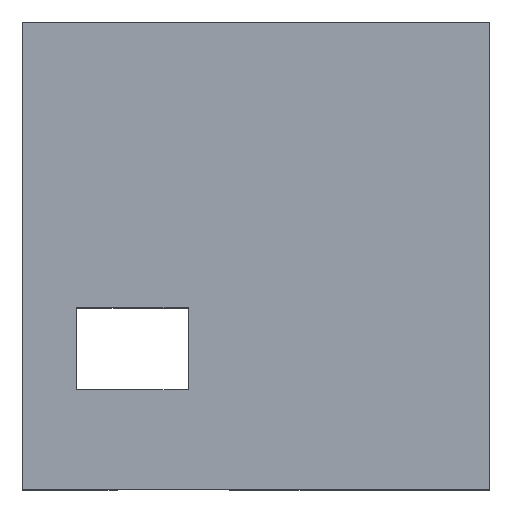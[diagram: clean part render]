
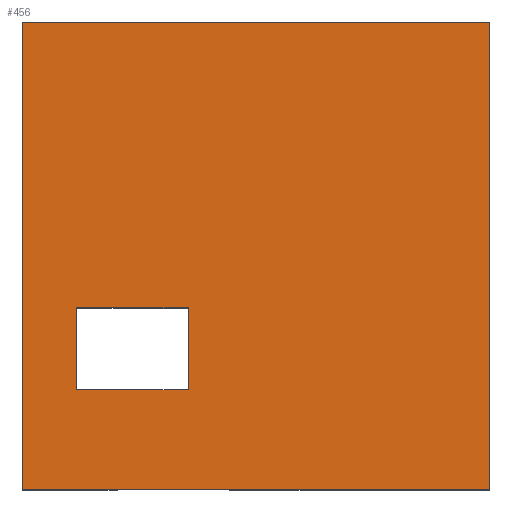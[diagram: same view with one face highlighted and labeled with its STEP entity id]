
A CAD part, top view. The second image highlights one B-rep face of the part: STEP entity #456.
In plain terms, the highlighted planar face has unit normal (0, 0, 1).
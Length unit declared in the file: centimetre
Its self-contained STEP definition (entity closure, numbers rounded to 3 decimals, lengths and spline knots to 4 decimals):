
#5 = ORIENTED_EDGE ( 'NONE', *, *, #780, .F. ) ;
#12 = DIRECTION ( 'NONE',  ( 1., 0., 0. ) ) ;
#93 = ORIENTED_EDGE ( 'NONE', *, *, #984, .F. ) ;
#105 = DIRECTION ( 'NONE',  ( 0., -1., 0. ) ) ;
#131 = VERTEX_POINT ( 'NONE', #601 ) ;
#151 = CARTESIAN_POINT ( 'NONE',  ( 115.9089, 388.5704, 1000. ) ) ;
#176 = CARTESIAN_POINT ( 'NONE',  ( 0., 1000., 1000. ) ) ;
#181 = ORIENTED_EDGE ( 'NONE', *, *, #1291, .T. ) ;
#183 = DIRECTION ( 'NONE',  ( 0., -1., 0. ) ) ;
#223 = ORIENTED_EDGE ( 'NONE', *, *, #374, .F. ) ;
#253 = DIRECTION ( 'NONE',  ( -1., 0., 0. ) ) ;
#255 = VERTEX_POINT ( 'NONE', #287 ) ;
#287 = CARTESIAN_POINT ( 'NONE',  ( 115.9089, 388.5704, 1000. ) ) ;
#298 = LINE ( 'NONE', #631, #616 ) ;
#332 = CARTESIAN_POINT ( 'NONE',  ( 0., 0., 1000. ) ) ;
#356 = VECTOR ( 'NONE', #183, 100. ) ;
#365 = CARTESIAN_POINT ( 'NONE',  ( 1000., 1000., 1000. ) ) ;
#374 = EDGE_CURVE ( 'NONE', #781, #131, #960, .T. ) ;
#392 = CARTESIAN_POINT ( 'NONE',  ( 354.715, 212.5243, 1000. ) ) ;
#418 = VECTOR ( 'NONE', #1070, 100. ) ;
#429 = CARTESIAN_POINT ( 'NONE',  ( 1000., 1000., 1000. ) ) ;
#433 = ORIENTED_EDGE ( 'NONE', *, *, #919, .T. ) ;
#456 = ADVANCED_FACE ( 'NONE', ( #862, #559 ), #1203, .T. ) ;
#475 = CARTESIAN_POINT ( 'NONE',  ( 0., 1000., 1000. ) ) ;
#488 = VERTEX_POINT ( 'NONE', #980 ) ;
#490 = CARTESIAN_POINT ( 'NONE',  ( 115.9089, 212.5243, 1000. ) ) ;
#498 = LINE ( 'NONE', #718, #550 ) ;
#503 = VECTOR ( 'NONE', #253, 100. ) ;
#531 = LINE ( 'NONE', #1193, #1106 ) ;
#532 = DIRECTION ( 'NONE',  ( 0., 0., 1. ) ) ;
#547 = ORIENTED_EDGE ( 'NONE', *, *, #1004, .F. ) ;
#550 = VECTOR ( 'NONE', #925, 100. ) ;
#559 = FACE_OUTER_BOUND ( 'NONE', #915, .T. ) ;
#562 = VERTEX_POINT ( 'NONE', #475 ) ;
#601 = CARTESIAN_POINT ( 'NONE',  ( 354.715, 212.5243, 1000. ) ) ;
#603 = VERTEX_POINT ( 'NONE', #365 ) ;
#607 = LINE ( 'NONE', #176, #356 ) ;
#616 = VECTOR ( 'NONE', #105, 100. ) ;
#631 = CARTESIAN_POINT ( 'NONE',  ( 115.9089, 212.5243, 1000. ) ) ;
#691 = CARTESIAN_POINT ( 'NONE',  ( 354.715, 388.5704, 1000. ) ) ;
#695 = ORIENTED_EDGE ( 'NONE', *, *, #1261, .T. ) ;
#718 = CARTESIAN_POINT ( 'NONE',  ( 0., 1000., 1000. ) ) ;
#780 = EDGE_CURVE ( 'NONE', #255, #781, #298, .T. ) ;
#781 = VERTEX_POINT ( 'NONE', #490 ) ;
#862 = FACE_BOUND ( 'NONE', #1109, .T. ) ;
#887 = EDGE_CURVE ( 'NONE', #603, #562, #498, .T. ) ;
#915 = EDGE_LOOP ( 'NONE', ( #695, #433, #181, #979 ) ) ;
#919 = EDGE_CURVE ( 'NONE', #488, #1155, #531, .T. ) ;
#922 = LINE ( 'NONE', #392, #930 ) ;
#925 = DIRECTION ( 'NONE',  ( -1., 0., 0. ) ) ;
#930 = VECTOR ( 'NONE', #1244, 100. ) ;
#960 = LINE ( 'NONE', #1076, #974 ) ;
#974 = VECTOR ( 'NONE', #1298, 100. ) ;
#979 = ORIENTED_EDGE ( 'NONE', *, *, #887, .T. ) ;
#980 = CARTESIAN_POINT ( 'NONE',  ( 0., 0., 1000. ) ) ;
#984 = EDGE_CURVE ( 'NONE', #131, #1054, #922, .T. ) ;
#1004 = EDGE_CURVE ( 'NONE', #1054, #255, #1120, .T. ) ;
#1026 = CARTESIAN_POINT ( 'NONE',  ( 1000., 0., 1000. ) ) ;
#1054 = VERTEX_POINT ( 'NONE', #691 ) ;
#1070 = DIRECTION ( 'NONE',  ( 0., 1., 0. ) ) ;
#1076 = CARTESIAN_POINT ( 'NONE',  ( 115.9089, 212.5243, 1000. ) ) ;
#1077 = LINE ( 'NONE', #429, #418 ) ;
#1106 = VECTOR ( 'NONE', #12, 100. ) ;
#1109 = EDGE_LOOP ( 'NONE', ( #5, #547, #93, #223 ) ) ;
#1120 = LINE ( 'NONE', #151, #503 ) ;
#1155 = VERTEX_POINT ( 'NONE', #1026 ) ;
#1193 = CARTESIAN_POINT ( 'NONE',  ( 0., 0., 1000. ) ) ;
#1203 = PLANE ( 'NONE',  #1235 ) ;
#1235 = AXIS2_PLACEMENT_3D ( 'NONE', #332, #532, #1283 ) ;
#1244 = DIRECTION ( 'NONE',  ( 0., 1., 0. ) ) ;
#1261 = EDGE_CURVE ( 'NONE', #562, #488, #607, .T. ) ;
#1283 = DIRECTION ( 'NONE',  ( 1., 0., 0. ) ) ;
#1291 = EDGE_CURVE ( 'NONE', #1155, #603, #1077, .T. ) ;
#1298 = DIRECTION ( 'NONE',  ( 1., 0., 0. ) ) ;
